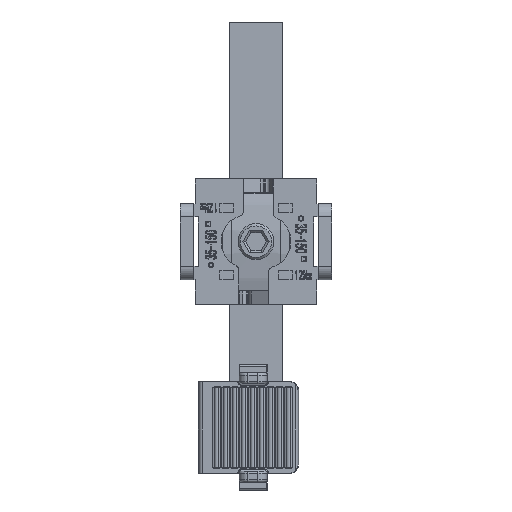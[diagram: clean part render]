
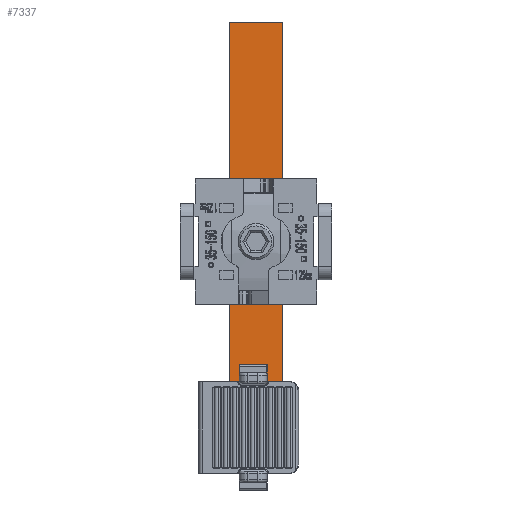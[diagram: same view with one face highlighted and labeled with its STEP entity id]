
A CAD part, front view. The second image highlights one B-rep face of the part: STEP entity #7337.
In plain terms, the highlighted planar face has unit normal (0, -1, 0).
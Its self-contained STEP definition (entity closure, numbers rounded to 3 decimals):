
#526 = CARTESIAN_POINT ( 'NONE',  ( -12.72, 13.708, 49. ) ) ;
#1199 = ORIENTED_EDGE ( 'NONE', *, *, #28946, .T. ) ;
#1494 = VERTEX_POINT ( 'NONE', #12308 ) ;
#2642 = LINE ( 'NONE', #526, #3097 ) ;
#3097 = VECTOR ( 'NONE', #30834, 1000. ) ;
#6064 = AXIS2_PLACEMENT_3D ( 'NONE', #30838, #15530, #37206 ) ;
#6486 = VERTEX_POINT ( 'NONE', #10438 ) ;
#6679 = CARTESIAN_POINT ( 'NONE',  ( -24.72, 13.708, 49. ) ) ;
#7082 = DIRECTION ( 'NONE',  ( 0., 0., -1. ) ) ;
#7337 = ADVANCED_FACE ( 'NONE', ( #28633 ), #12480, .F. ) ;
#9502 = LINE ( 'NONE', #16266, #25223 ) ;
#10438 = CARTESIAN_POINT ( 'NONE',  ( -24.72, 13.708, 49. ) ) ;
#10906 = VECTOR ( 'NONE', #7082, 1000. ) ;
#11433 = VERTEX_POINT ( 'NONE', #25165 ) ;
#12308 = CARTESIAN_POINT ( 'NONE',  ( -24.72, 13.708, -35. ) ) ;
#12480 = PLANE ( 'NONE',  #6064 ) ;
#14408 = VECTOR ( 'NONE', #23372, 1000. ) ;
#14517 = ORIENTED_EDGE ( 'NONE', *, *, #17475, .F. ) ;
#15530 = DIRECTION ( 'NONE',  ( 0., 1., 0. ) ) ;
#16072 = EDGE_CURVE ( 'NONE', #30600, #11433, #2642, .T. ) ;
#16266 = CARTESIAN_POINT ( 'NONE',  ( -12.72, 13.708, -35. ) ) ;
#17475 = EDGE_CURVE ( 'NONE', #6486, #30600, #26761, .T. ) ;
#23372 = DIRECTION ( 'NONE',  ( 1., 0., 0. ) ) ;
#25165 = CARTESIAN_POINT ( 'NONE',  ( -12.72, 13.708, -35. ) ) ;
#25223 = VECTOR ( 'NONE', #25706, 1000. ) ;
#25706 = DIRECTION ( 'NONE',  ( 1., 0., 0. ) ) ;
#26761 = LINE ( 'NONE', #32955, #14408 ) ;
#27102 = ORIENTED_EDGE ( 'NONE', *, *, #16072, .F. ) ;
#28489 = EDGE_CURVE ( 'NONE', #1494, #11433, #9502, .T. ) ;
#28633 = FACE_OUTER_BOUND ( 'NONE', #32088, .T. ) ;
#28946 = EDGE_CURVE ( 'NONE', #6486, #1494, #35648, .T. ) ;
#29862 = CARTESIAN_POINT ( 'NONE',  ( -12.72, 13.708, 49. ) ) ;
#30600 = VERTEX_POINT ( 'NONE', #29862 ) ;
#30834 = DIRECTION ( 'NONE',  ( 0., 0., -1. ) ) ;
#30838 = CARTESIAN_POINT ( 'NONE',  ( -12.72, 13.708, 49. ) ) ;
#32088 = EDGE_LOOP ( 'NONE', ( #1199, #38852, #27102, #14517 ) ) ;
#32955 = CARTESIAN_POINT ( 'NONE',  ( -12.72, 13.708, 49. ) ) ;
#35648 = LINE ( 'NONE', #6679, #10906 ) ;
#37206 = DIRECTION ( 'NONE',  ( -1., 0., 0. ) ) ;
#38852 = ORIENTED_EDGE ( 'NONE', *, *, #28489, .T. ) ;
